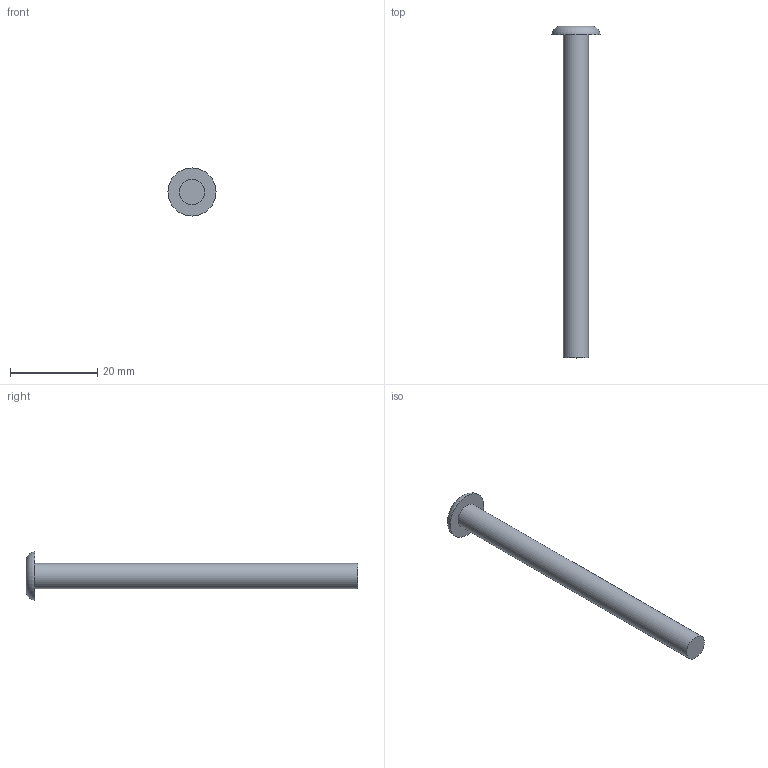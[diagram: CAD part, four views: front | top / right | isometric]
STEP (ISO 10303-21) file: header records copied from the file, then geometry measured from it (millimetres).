
FILE_DESCRIPTION(/* description */ ('STEP AP242 Edition 2','CAx-IF Rec.Pracs.---Representation and Presentation of Product Manufacturing Information (PMI)---4.0---2014-10-13','CAx-IF Rec.Pracs.---3D Tessellated Geometry---0.4---2014-09-14','2;1','CAx-IF Rec.Pracs.---User Defined Attributes---1.5---2016-08-15'),/* implementation_level */ '2;1');
FILE_NAME(/* name */ 'Assembly 1 - Rail 1',/* time_stamp */ '2026-08-25T12:51:59Z',/* author */ (''),/* organization */ (''),/* preprocessor_version */ 'ST-DEVELOPER v20',/* originating_system */ 'ONSHAPE BY PTC INC, 1.219',/* authorisation */ ' ');
FILE_SCHEMA (('AP242_MANAGED_MODEL_BASED_3D_ENGINEERING_MIM_LF { 1 0 10303 442 3 1 4 }'));
Length unit declared in the file: metre
Products named in the file (1): Rail 1
Bounding box: 11 x 76 x 11 mm (x, y, z)
Volume: 2118 mm3; surface area: 1576.1 mm2
Topology: 1 solids, 1 shells, 5 faces, 6 edges, 4 vertices
Faces by surface type: plane 3, cylinder 1, torus 1
Full cylindrical faces by diameter (mm): 5.8 x1
Entity records: 116 total; most frequent: DIRECTION 20, CARTESIAN_POINT 14, AXIS2_PLACEMENT_3D 10, ORIENTED_EDGE 8, EDGE_LOOP 8, FACE_BOUND 8, ADVANCED_FACE 5, EDGE_CURVE 4
